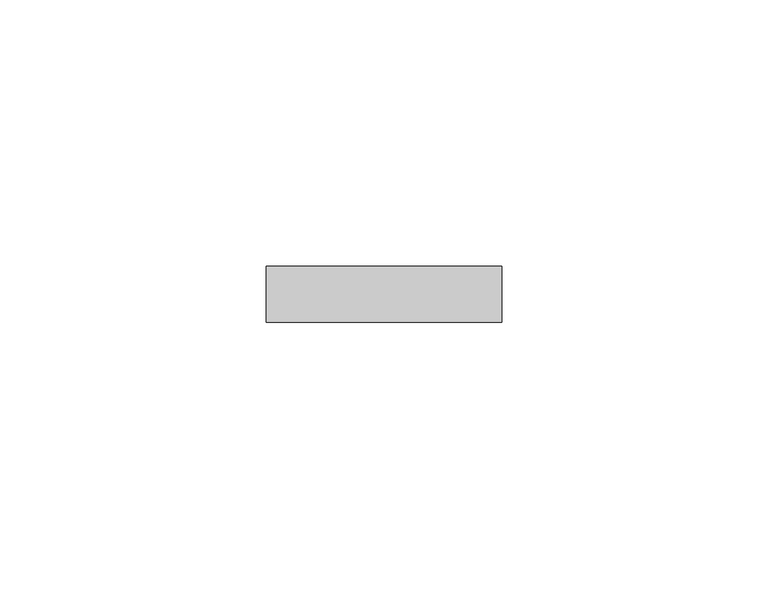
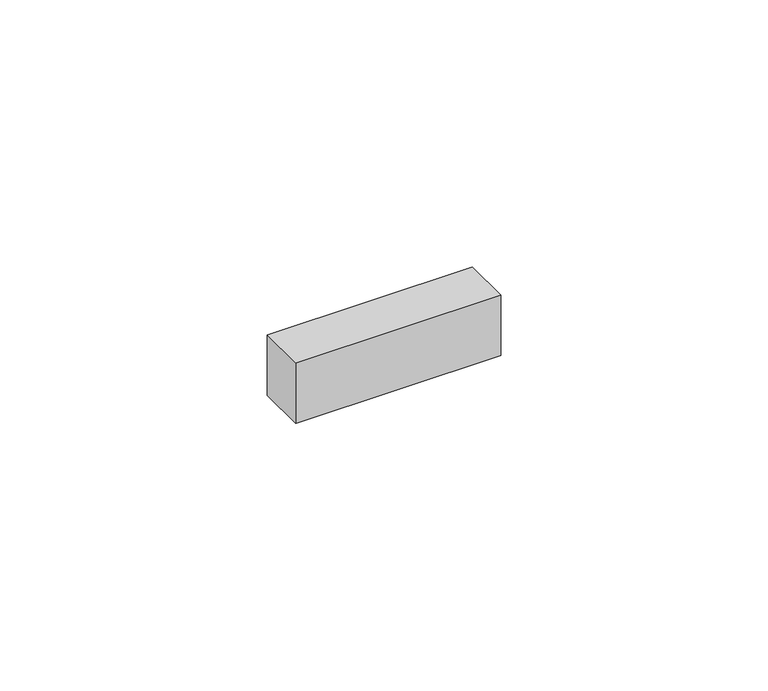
"""IFC4 building model written with IfcOpenShell, lengths in millimetres: proxy geometry, Amortecedor de Vibração : Bandeja de Rack."""

from ifc_helpers import new_model, si_unit, origin, origin_with_axes, place, context, project, spatial, polyline, outline, extrude, source, transform, mapped, element, save


def electrical_equipment_159b6aa7(model_context):
    return source(origin(), model_context, "Body", "SweptSolid", [
        extrude(outline(polyline([(8.0797854, -1.2043634), (8.0797854, -11.7827067), (-36.1885078, -11.7827067), (-36.1885078, -1.2043634), (8.0797854, -1.2043634)])), origin_with_axes(), (0.0, 0.0, 1.0), 13.7738983),
    ])


if __name__ == "__main__":
    model = new_model("IFC4")
    model_context = context("Model", 3, world=origin())
    ifc_project = project(units=[si_unit("LENGTHUNIT", "METRE", prefix="MILLI")], contexts=[model_context])
    site = spatial("IfcSite", under=ifc_project)
    building = spatial("IfcBuilding", under=site)
    placement = place(None, origin())
    electrical_equipment_shape = electrical_equipment_159b6aa7(model_context)
    element("IfcBuildingElementProxy", 1, Name="Amortecedor de Vibração : Bandeja de Rack", ObjectType="Amortecedor de Vibração : Bandeja de Rack", at=placement, inside=building, context=model_context, shape_type="MappedRepresentation", body=[
        mapped(electrical_equipment_shape, transform((0.0, 0.0, 0.0), x_axis=(1.0, 0.0, 0.0), y_axis=(0.0, 1.0, 0.0), z_axis=(0.0, 0.0, 1.0))),
    ])
    save(model, "model.ifc")
